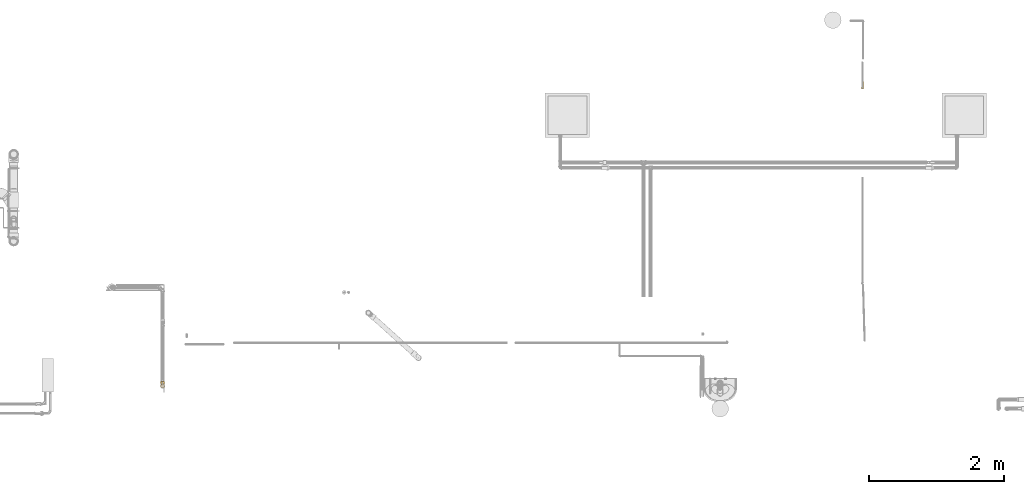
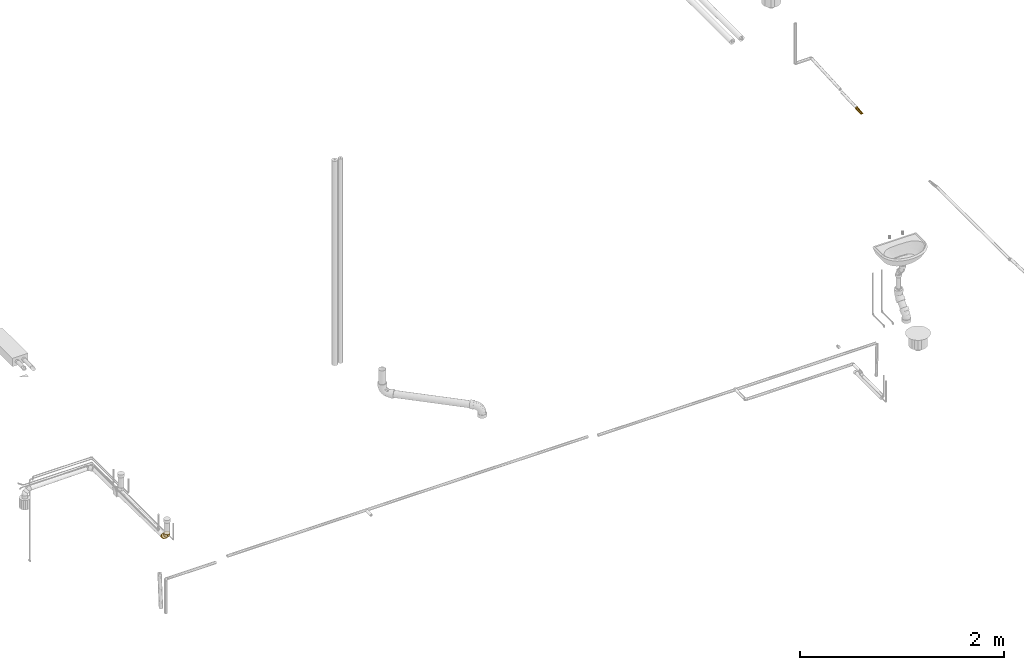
# One storey, part 16 of 108: 3 coverings.
"""IFC2X3 building model written with IfcOpenShell, lengths in millimetres."""

from ifc_helpers import new_model, entity, si_unit, converted_unit, derived_unit, direction, frame, origin_with_axes, place, context, subcontext, project, spatial, open_shell, faceted_brep, surface_model, source, transform, mapped, element, save


model = new_model("IFC2X3")

# Units and contexts
model_context = context("Model", 3, precision=0.01, world=frame((0.0, 4.29681676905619e-09, 0.0)), true_north=direction((4.01073788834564e-13, 1.0)))
plan_context = context("Plan", 3, precision=0.01, world=frame((0.0, 4.29681676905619e-09, 0.0)), true_north=direction((4.01073788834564e-13, 1.0)))
body_context = subcontext(model_context, "Body", "Model", "MODEL_VIEW")
ifc_project = project(units=[converted_unit("PLANEANGLEUNIT", "DEGREE", entity("IfcPositiveLengthMeasure", 0.0174532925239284), si_unit("PLANEANGLEUNIT", "RADIAN"), dimensions=[0, 0, 0, 0, 0, 0, 0]), si_unit("AREAUNIT", "SQUARE_METRE"), si_unit("LENGTHUNIT", "METRE", prefix="MILLI"), si_unit("MASSUNIT", "GRAM", prefix="KILO"), si_unit("POWERUNIT", "WATT"), si_unit("PRESSUREUNIT", "PASCAL", prefix="KILO"), si_unit("FORCEUNIT", "NEWTON", prefix="KILO"), si_unit("ELECTRICVOLTAGEUNIT", "VOLT"), si_unit("ELECTRICCURRENTUNIT", "AMPERE"), si_unit("THERMODYNAMICTEMPERATUREUNIT", "DEGREE_CELSIUS"), si_unit("TIMEUNIT", "SECOND"), si_unit("VOLUMEUNIT", "CUBIC_METRE"), derived_unit("LINEARVELOCITYUNIT", [(si_unit("LENGTHUNIT", "METRE"), 1), (si_unit("TIMEUNIT", "SECOND"), -1)]), derived_unit("VOLUMETRICFLOWRATEUNIT", [(si_unit("VOLUMEUNIT", "CUBIC_METRE"), 1), (si_unit("TIMEUNIT", "SECOND"), -1)]), derived_unit("THERMALTRANSMITTANCEUNIT", [(si_unit("POWERUNIT", "WATT"), 1), (si_unit("THERMODYNAMICTEMPERATUREUNIT", "KELVIN"), -1), (si_unit("AREAUNIT", "SQUARE_METRE"), -1)]), derived_unit("SOUNDPRESSUREUNIT", [(si_unit("PRESSUREUNIT", "PASCAL"), 1)])], contexts=[model_context, plan_context])

# Site, building, storey
site_placement = place(None, frame((0.0, -4.29681676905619e-09, 0.0), z_axis=(0.0, 0.0, 1.0), x_axis=(1.0, 0.0, 0.0)))
site = spatial("IfcSite", under=ifc_project, at=site_placement, CompositionType="ELEMENT")
building_placement = place(site_placement, frame((0.0, 4.29681676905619e-09, 0.0), z_axis=(0.0, 0.0, 1.0), x_axis=(1.0, 0.0, 0.0)))
building = spatial("IfcBuilding", under=site, at=building_placement, Name="mc-building", CompositionType="ELEMENT")
storey_placement = place(building_placement, frame((0.0, 0.0, 210200.0), z_axis=(0.0, 0.0, 1.0), x_axis=(1.0, 0.0, 0.0)))
storey = spatial("IfcBuildingStorey", under=building, at=storey_placement, Name="Nivå F - 0,7 m", CompositionType="ELEMENT", Elevation=210200.0)

# Coverings
shared_shape_1 = source(origin_with_axes(), body_context, "Body", "SurfaceModel", [
    surface_model("IfcShellBasedSurfaceModel", [(-11.03983, 31.89356, 0.0), (-10.50591, 31.34154, 6.81254), (-8.93143, 29.71369, 13.28167), (1.00675, 19.43863, 27.57178), (5.50288, 14.79008, 29.83368), (-3.02689, 23.609, 23.9276), (-3.03324, 23.61556, -23.92032), (-6.401, 27.09749, -19.07433), (1.00031, 19.44528, -27.56732), (10.23406, 9.89852, 30.6), (14.97031, 5.00172, 29.83202), (19.46781, 0.35176, 27.56732), (23.50136, -3.81852, 23.92032), (26.86913, -7.30045, 19.07433), (29.40266, -9.91986, 13.27241), (19.46138, 0.35841, -27.57178), (26.86407, -7.29522, -19.08346), (23.49502, -3.81196, -23.9276), (31.50795, -12.09652, 0.0), (30.97403, -11.5445, -6.81254), (29.39956, -9.91665, -13.28167), (-14.23786, 29.55733, -7.91986), (-14.23786, 29.55733, 7.91986), (-14.23786, 30.6, 0.0), (-14.23786, 21.63747, -21.63747), (-14.23786, 26.50038, -15.3), (-14.23786, 15.3, -26.50038), (-14.23786, 26.50038, 15.3), (-14.23786, 7.91986, -29.55733), (-14.23786, 7.91986, 29.55733), (-14.23786, 21.63747, 21.63747), (-14.23786, 15.3, 26.50038), (-14.23786, -7.91986, 29.55733), (-14.23786, 0.0, 30.6), (-14.23786, 0.0, -30.6), (-14.23786, -7.91986, -29.55733), (-14.23786, -15.3, -26.50038), (-14.23786, -21.63747, -21.63747), (-14.23786, -26.50038, -15.3), (-14.23786, -29.55733, -7.91986), (-14.23786, -30.6, 0.0), (-14.23786, -15.3, 26.50038), (-14.23786, -29.55733, 7.91986), (-14.23786, -21.63747, 21.63747), (-14.23786, -26.50038, 15.3), (-4.47914, -18.08054, 24.01288), (3.91226, -19.73172, 20.57233), (-2.52374, -24.61535, 16.52923), (9.25885, -21.90567, 15.21245), (5.60139, -26.44835, 7.90248), (19.32332, -19.58877, 9.61313), (15.53264, -13.95106, 20.99227), (30.97519, -11.54569, 6.80525), (20.97162, -18.94775, 0.0), (6.01426, -13.67457, 24.95827), (7.79582, -5.78669, 28.42368), (-2.18344, -4.80671, 29.88344), (-3.29516, -11.63218, 27.75094), (15.11137, -7.87717, 25.4932), (20.07411, -15.73289, 15.78846), (-1.90128, -28.19949, 0.0), (-4.27693, -29.32366, 5.57425), (10.43529, -25.79898, 0.0), (-4.59313, -27.78524, 11.09072), (6.31431, 0.99197, 30.23578), (-1.03885, 2.56833, 30.6), (-7.671, 10.64811, 28.99332), (-1.5474, 13.54717, 28.8843), (5.35271, 6.72443, 30.6), (-7.63836, 1.28416, 30.6), (-7.01416, 17.70864, 25.91258), (-10.84889, 17.60779, 25.25097), (-12.63361, 29.20063, 9.79535), (-12.51299, 30.93563, 0.0), (-13.37543, 30.76782, 0.0), (-10.50069, 22.15841, 21.64142), (-12.35551, 25.4247, 17.2929), (-10.69061, 26.61038, 16.28498), (-7.37801, 23.49544, 21.64159), (-11.67773, 31.47876, 0.0), (-11.04307, 29.74854, 10.11071), (-3.60116, 19.54784, 25.91258), (-6.39595, 27.09226, 19.08346), (-9.01445, 27.51361, 16.28498), (-12.63414, 29.20409, -9.78506), (-11.04437, 29.75118, -10.10234), (-10.50706, 31.34273, -6.80525), (-10.69271, 26.61583, -16.27569), (-12.35588, 25.43059, -17.28434), (-7.67514, 10.65765, -28.98985), (-1.03885, 2.56833, -30.6), (-7.63836, 1.28416, -30.6), (-10.50287, 22.16601, -21.63351), (-10.85184, 17.61594, -25.24511), (-7.01796, 17.71712, -25.90675), (-7.38218, 23.50256, -21.63334), (5.49781, 14.79532, -29.83202), (10.23406, 9.89852, -30.6), (5.35271, 6.72443, -30.6), (-1.55234, 13.55399, -28.88137), (-8.93453, 29.7169, -13.27241), (-9.01773, 27.51844, -16.27569), (-3.6064, 19.55551, -25.90675), (14.96524, 5.00696, -29.83368), (7.79244, -5.77911, -28.42698), (19.32066, -19.58725, -9.62124), (20.07108, -15.72824, -15.79766), (-2.18125, -4.80157, -29.88438), (-2.52823, -24.61064, -16.53777), (3.9083, -19.7254, -20.5803), (-4.60481, -27.7832, -11.10045), (-3.30331, -11.624, -27.7555), (6.01176, -13.66606, -24.96453), (9.25624, -21.90114, -15.22149), (5.58692, -26.45158, -7.90753), (-4.47379, -18.0715, -24.01914), (-4.2639, -29.32056, -5.58006), (6.31265, 0.99463, -30.23627), (15.52898, -13.94407, -21.00061), (15.10657, -7.86945, -25.49922)], [open_shell([[[0, 1, 2]], [[3, 4, 5]], [[6, 7, 8]], [[9, 10, 11]], [[12, 13, 14]], [[14, 11, 12]], [[15, 16, 17]], [[18, 19, 20]], [[21, 22, 23]], [[24, 21, 25]], [[22, 21, 26]], [[26, 21, 24]], [[27, 26, 28]], [[27, 29, 30]], [[27, 22, 26]], [[30, 29, 31]], [[27, 28, 29]], [[32, 33, 29]], [[29, 28, 32]], [[34, 35, 36]], [[32, 34, 36]], [[37, 38, 39]], [[36, 37, 32]], [[39, 40, 37]], [[41, 42, 43]], [[40, 41, 32]], [[43, 42, 44]], [[42, 41, 40]], [[32, 37, 40]], [[34, 32, 28]], [[45, 43, 46]], [[47, 48, 46]], [[49, 50, 48]], [[46, 48, 51]], [[52, 53, 18]], [[12, 51, 13]], [[46, 51, 54]], [[55, 56, 57]], [[58, 51, 12]], [[33, 32, 56]], [[54, 55, 57]], [[59, 51, 48]], [[40, 60, 61]], [[49, 62, 50]], [[14, 13, 59]], [[14, 59, 50]], [[47, 43, 44]], [[53, 52, 50]], [[49, 48, 63]], [[45, 46, 54]], [[57, 41, 45]], [[64, 9, 65]], [[11, 10, 55]], [[58, 55, 54]], [[51, 59, 13]], [[49, 63, 61]], [[11, 58, 12]], [[48, 47, 63]], [[50, 59, 48]], [[14, 50, 52]], [[43, 47, 46]], [[56, 64, 65]], [[44, 42, 63]], [[10, 64, 55]], [[32, 41, 57]], [[33, 56, 65]], [[32, 57, 56]], [[57, 45, 54]], [[43, 45, 41]], [[55, 58, 11]], [[62, 49, 60]], [[51, 58, 54]], [[55, 64, 56]], [[9, 64, 10]], [[50, 62, 53]], [[44, 63, 47]], [[61, 63, 42]], [[40, 61, 42]], [[49, 61, 60]], [[66, 65, 67]], [[67, 68, 4]], [[29, 69, 66]], [[66, 70, 71]], [[72, 73, 74]], [[70, 75, 71]], [[72, 27, 76]], [[76, 75, 77]], [[78, 75, 70]], [[1, 0, 79]], [[73, 72, 80]], [[74, 22, 72]], [[3, 67, 4]], [[27, 72, 22]], [[3, 81, 67]], [[5, 82, 78]], [[5, 81, 3]], [[2, 1, 80]], [[80, 1, 79]], [[78, 70, 81]], [[72, 77, 80]], [[83, 82, 2]], [[73, 80, 79]], [[75, 78, 77]], [[83, 78, 82]], [[83, 80, 77]], [[66, 67, 70]], [[31, 29, 66]], [[4, 68, 9]], [[67, 65, 68]], [[22, 74, 23]], [[30, 75, 76]], [[71, 30, 31]], [[78, 81, 5]], [[67, 81, 70]], [[80, 83, 2]], [[78, 83, 77]], [[72, 76, 77]], [[30, 76, 27]], [[30, 71, 75]], [[66, 71, 31]], [[69, 29, 33]], [[69, 65, 66]], [[84, 73, 85]], [[85, 79, 86]], [[21, 74, 84]], [[84, 87, 88]], [[89, 90, 91]], [[87, 92, 88]], [[89, 26, 93]], [[93, 92, 94]], [[95, 92, 87]], [[96, 97, 98]], [[90, 89, 99]], [[91, 28, 89]], [[100, 85, 86]], [[26, 89, 28]], [[85, 100, 101]], [[99, 96, 98]], [[100, 7, 101]], [[84, 85, 87]], [[86, 79, 0]], [[95, 87, 101]], [[89, 94, 99]], [[102, 6, 8]], [[90, 99, 98]], [[24, 92, 93]], [[8, 96, 99]], [[102, 99, 94]], [[102, 95, 6]], [[7, 6, 95]], [[92, 95, 94]], [[85, 73, 79]], [[28, 91, 34]], [[25, 21, 84]], [[88, 24, 25]], [[95, 101, 7]], [[85, 101, 87]], [[99, 102, 8]], [[95, 102, 94]], [[89, 93, 94]], [[24, 93, 26]], [[24, 88, 92]], [[84, 88, 25]], [[74, 21, 23]], [[74, 73, 84]], [[103, 15, 104]], [[105, 106, 20]], [[90, 107, 34]], [[108, 37, 109]], [[110, 38, 108]], [[111, 104, 112]], [[110, 108, 113]], [[110, 113, 114]], [[115, 112, 109]], [[108, 109, 113]], [[115, 37, 36]], [[110, 116, 39]], [[117, 104, 107]], [[118, 106, 113]], [[104, 15, 119]], [[111, 107, 104]], [[119, 15, 17]], [[109, 118, 113]], [[112, 115, 111]], [[112, 119, 118]], [[114, 113, 105]], [[106, 16, 20]], [[114, 105, 62]], [[116, 114, 60]], [[112, 118, 109]], [[106, 105, 113]], [[19, 53, 105]], [[20, 19, 105]], [[106, 118, 16]], [[117, 97, 103]], [[40, 39, 116]], [[118, 17, 16]], [[37, 108, 38]], [[36, 35, 111]], [[107, 90, 117]], [[111, 35, 107]], [[34, 107, 35]], [[37, 115, 109]], [[111, 115, 36]], [[114, 62, 60]], [[118, 119, 17]], [[104, 119, 112]], [[97, 117, 90]], [[104, 117, 103]], [[53, 19, 18]], [[53, 62, 105]], [[38, 110, 39]], [[114, 116, 110]], [[40, 116, 60]], [[0, 2, 82]], [[0, 5, 7]], [[0, 82, 5]], [[96, 5, 4]], [[0, 7, 100]], [[100, 86, 0]], [[8, 7, 5]], [[5, 96, 8]], [[103, 97, 96]], [[96, 4, 9]], [[18, 9, 11]], [[11, 14, 18]], [[18, 14, 52]], [[20, 15, 103]], [[16, 15, 20]], [[96, 20, 103]], [[18, 20, 96]], [[96, 9, 18]]])]),
])
covering_1_placement = place(storey_placement, frame((331121.18062, 460715.60515, 250.07527999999), z_axis=(-1.0, 0.0, 0.0), x_axis=(0.0, -0.999861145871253, 0.0166640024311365)))
element("IfcCovering", 1, at=covering_1_placement, inside=storey, Name="BI17T - Cellegummi 13 mm SPV fett", PredefinedType="INSULATION", context=body_context, shape_type="MappedRepresentation", body=[
    mapped(shared_shape_1, transform((0.0, 0.0, 0.0), scale=1.0)),
])
shared_shape_2 = source(origin_with_axes(), body_context, "Body", "SurfaceModel", [
    surface_model("IfcShellBasedSurfaceModel", [(0.92483, 19.69486, 27.57178), (5.4978, 15.12188, 29.83368), (-3.17775, 23.79743, 23.9276), (-9.1832, 29.80288, 13.28167), (-6.60438, 27.22406, 19.08346), (-9.18635, 29.80603, -13.27241), (-10.78576, 31.40544, -6.80525), (-11.32763, 31.94731, 0.0), (-3.1842, 23.80388, -23.92032), (-6.60952, 27.22921, -19.07433), (0.91828, 19.7014, -27.56732), (27.22921, -6.60952, 19.07433), (19.7014, 0.91828, 27.56732), (23.80388, -3.1842, 23.92032), (19.69486, 0.92483, -27.57178), (27.22406, -6.60438, -19.08346), (23.79743, -3.17775, -23.9276), (15.12188, 5.4978, -29.83368), (31.94731, -11.32763, 0.0), (31.40426, -10.78458, -6.81254), (29.80288, -9.1832, -13.28167), (-14.58032, 29.55733, -7.91986), (-14.58032, 29.55733, 7.91986), (-14.58032, 30.6, 0.0), (-14.58032, 21.63747, -21.63747), (-14.58032, 26.50038, -15.3), (-14.58032, 15.3, -26.50038), (-14.58032, 26.50038, 15.3), (-14.58032, 7.91986, -29.55733), (-14.58032, 7.91986, 29.55733), (-14.58032, 21.63747, 21.63747), (-14.58032, 15.3, 26.50038), (-14.58032, -7.91986, 29.55733), (-14.58032, 0.0, 30.6), (-14.58032, 0.0, -30.6), (-14.58032, -7.91986, -29.55733), (-14.58032, -15.3, -26.50038), (-14.58032, -21.63747, -21.63747), (-14.58032, -26.50038, -15.3), (-14.58032, -29.55733, -7.91986), (-14.58032, -30.6, 0.0), (-14.58032, -15.3, 26.50038), (-14.58032, -29.55733, 7.91986), (-14.58032, -21.63747, 21.63747), (-14.58032, -26.50038, 15.3), (-3.31694, -19.08895, 22.94554), (-2.96055, -23.56618, 18.05755), (4.28228, -27.30645, 5.56058), (9.39397, -21.73659, 15.16447), (-1.7164, -27.15946, 11.21067), (15.88187, -13.54981, 20.97029), (-1.86061, -4.62817, 29.87755), (6.51082, 1.42545, 30.24937), (-1.10986, 2.67944, 30.6), (-3.4156, -11.50094, 27.78642), (15.29276, -7.55457, 25.47194), (6.09315, -13.56566, 24.91387), (8.01639, -5.52529, 28.40751), (-1.99003, -28.09564, 0.0), (10.60025, -25.59127, 0.0), (19.72319, -19.13401, 9.59543), (20.34533, -15.40121, 15.66878), (29.80603, -9.18635, 13.27241), (21.27378, -18.45945, 0.0), (31.40544, -10.78576, 6.80525), (10.30984, 10.30984, 30.6), (15.12704, 5.49265, 29.83202), (6.13075, -19.15711, 20.21833), (-7.77081, 10.51178, 29.05846), (-1.5982, 13.72077, 28.8843), (5.46985, 7.07586, 30.6), (-7.84509, 1.33972, 30.6), (-7.21382, 17.7683, 25.91258), (-11.13057, 17.67143, 25.21609), (-12.94675, 29.27613, 9.60031), (-12.81997, 30.95015, 0.0), (-13.70015, 30.77508, 0.0), (-10.6141, 22.22624, 21.64141), (-12.652, 25.39805, 17.34379), (-7.56281, 23.58928, 21.64159), (-3.75572, 19.67719, 25.91258), (-10.78458, 31.40426, 6.81254), (-11.96012, 31.52469, 0.0), (-11.31209, 29.79225, 10.11071), (-10.96293, 26.63968, 16.28498), (-9.26464, 27.57713, 16.28498), (-12.94733, 29.27954, -9.58989), (-11.31343, 29.79486, -10.10234), (-10.96509, 26.64511, -16.27569), (-12.6524, 25.404, -17.33519), (-7.77496, 10.52145, -29.05502), (-1.10986, 2.67944, -30.6), (-7.84509, 1.33972, -30.6), (-10.61641, 22.23379, -21.63352), (-11.13357, 17.67961, -25.21017), (-7.56708, 23.59634, -21.63334), (-9.26797, 27.58193, -16.27569), (5.49265, 15.12704, -29.83202), (10.30984, 10.30984, -30.6), (5.46985, 7.07586, -30.6), (-1.60322, 13.72753, -28.88137), (-7.21768, 17.77675, -25.90675), (-3.76105, 19.6848, -25.90675), (8.0129, -5.51777, -28.41082), (4.28235, -27.30661, -5.55962), (-1.85891, -4.62315, -29.8785), (-2.96595, -23.56704, -18.05782), (-1.71033, -27.1583, -11.21043), (-3.42387, -11.49277, -27.79098), (6.09056, -13.55719, -24.92014), (-3.31399, -19.08646, -22.94716), (9.39135, -21.7321, -15.17351), (6.50892, 1.42782, -30.24983), (15.28786, -7.54692, -25.47798), (6.13182, -19.15831, -20.21661), (20.34212, -15.39869, -15.67532), (15.87812, -13.54289, -20.97863), (19.72055, -19.1325, -9.60354)], [open_shell([[[0, 1, 2]], [[3, 4, 2]], [[5, 6, 7]], [[8, 9, 10]], [[11, 12, 13]], [[14, 15, 16]], [[15, 14, 17]], [[18, 19, 15]], [[20, 15, 19]], [[21, 22, 23]], [[24, 21, 25]], [[22, 21, 26]], [[26, 21, 24]], [[27, 26, 28]], [[27, 29, 30]], [[27, 22, 26]], [[30, 29, 31]], [[27, 28, 29]], [[32, 33, 29]], [[29, 28, 32]], [[34, 35, 36]], [[32, 34, 36]], [[37, 38, 39]], [[36, 37, 32]], [[39, 40, 37]], [[41, 42, 43]], [[40, 41, 32]], [[43, 42, 44]], [[42, 41, 40]], [[32, 37, 40]], [[34, 32, 28]], [[45, 41, 43]], [[43, 44, 46]], [[47, 48, 49]], [[43, 46, 45]], [[46, 49, 48]], [[13, 50, 11]], [[51, 52, 53]], [[51, 32, 54]], [[55, 50, 13]], [[33, 32, 51]], [[56, 57, 54]], [[54, 41, 45]], [[42, 40, 58]], [[47, 59, 60]], [[50, 61, 11]], [[62, 61, 60]], [[51, 54, 57]], [[63, 64, 60]], [[44, 42, 49]], [[42, 47, 49]], [[61, 48, 60]], [[52, 65, 53]], [[12, 66, 57]], [[55, 57, 56]], [[64, 63, 18]], [[47, 60, 48]], [[12, 55, 13]], [[58, 47, 42]], [[59, 47, 58]], [[62, 60, 64]], [[32, 41, 54]], [[56, 45, 67]], [[52, 57, 66]], [[51, 53, 33]], [[49, 46, 44]], [[48, 50, 67]], [[67, 45, 46]], [[45, 56, 54]], [[48, 67, 46]], [[56, 67, 50]], [[57, 55, 12]], [[50, 55, 56]], [[57, 52, 51]], [[65, 52, 66]], [[11, 61, 62]], [[50, 48, 61]], [[60, 59, 63]], [[68, 53, 69]], [[69, 70, 1]], [[29, 71, 68]], [[68, 72, 73]], [[74, 75, 76]], [[72, 77, 73]], [[74, 27, 78]], [[79, 80, 2]], [[79, 77, 72]], [[81, 7, 82]], [[75, 74, 83]], [[76, 22, 74]], [[0, 69, 1]], [[27, 74, 22]], [[0, 80, 69]], [[2, 4, 79]], [[2, 80, 0]], [[3, 81, 83]], [[83, 81, 82]], [[79, 72, 80]], [[74, 84, 83]], [[85, 4, 3]], [[75, 83, 82]], [[77, 79, 84]], [[85, 79, 4]], [[85, 83, 84]], [[68, 69, 72]], [[31, 29, 68]], [[1, 70, 65]], [[69, 53, 70]], [[22, 76, 23]], [[30, 77, 78]], [[69, 80, 72]], [[83, 85, 3]], [[79, 85, 84]], [[78, 77, 84]], [[73, 30, 31]], [[74, 78, 84]], [[30, 78, 27]], [[30, 73, 77]], [[68, 73, 31]], [[71, 29, 33]], [[71, 53, 68]], [[86, 75, 87]], [[87, 82, 6]], [[21, 76, 86]], [[86, 88, 89]], [[90, 91, 92]], [[88, 93, 89]], [[90, 26, 94]], [[95, 96, 9]], [[95, 93, 88]], [[97, 98, 99]], [[91, 90, 100]], [[92, 28, 90]], [[5, 87, 6]], [[26, 90, 28]], [[87, 5, 96]], [[100, 97, 99]], [[5, 9, 96]], [[86, 87, 88]], [[6, 82, 7]], [[95, 88, 96]], [[90, 101, 100]], [[102, 8, 10]], [[91, 100, 99]], [[24, 93, 94]], [[10, 97, 100]], [[102, 100, 101]], [[102, 95, 8]], [[9, 8, 95]], [[93, 95, 101]], [[87, 75, 82]], [[28, 92, 34]], [[25, 21, 86]], [[87, 96, 88]], [[100, 102, 10]], [[95, 102, 101]], [[94, 93, 101]], [[89, 24, 25]], [[90, 94, 101]], [[24, 94, 26]], [[24, 89, 93]], [[86, 89, 25]], [[76, 21, 23]], [[76, 75, 86]], [[17, 14, 103]], [[39, 104, 58]], [[91, 105, 34]], [[37, 106, 38]], [[39, 107, 104]], [[108, 103, 109]], [[106, 107, 38]], [[35, 34, 105]], [[108, 110, 36]], [[104, 107, 111]], [[36, 35, 108]], [[104, 59, 58]], [[112, 103, 105]], [[40, 39, 58]], [[103, 14, 113]], [[114, 111, 106]], [[113, 14, 16]], [[103, 108, 105]], [[115, 15, 20]], [[109, 113, 116]], [[39, 38, 107]], [[20, 117, 115]], [[104, 117, 59]], [[106, 110, 114]], [[115, 117, 111]], [[19, 63, 117]], [[20, 19, 117]], [[109, 110, 108]], [[112, 98, 17]], [[104, 111, 117]], [[116, 16, 15]], [[35, 105, 108]], [[112, 105, 91]], [[110, 106, 37]], [[107, 106, 111]], [[36, 110, 37]], [[114, 109, 116]], [[109, 114, 110]], [[111, 114, 116]], [[116, 113, 16]], [[103, 113, 109]], [[98, 112, 91]], [[103, 112, 17]], [[111, 116, 115]], [[15, 115, 116]], [[63, 19, 18]], [[63, 59, 117]], [[5, 7, 81]], [[3, 5, 81]], [[5, 3, 2]], [[5, 2, 17]], [[5, 17, 9]], [[17, 98, 97]], [[9, 17, 10]], [[17, 97, 10]], [[17, 2, 1]], [[65, 66, 12]], [[1, 12, 17]], [[12, 11, 17]], [[62, 64, 11]], [[64, 18, 11]], [[18, 15, 17]], [[17, 11, 18]], [[12, 1, 65]]])]),
])
covering_2_placement = place(storey_placement, frame((331121.18062, 460657.6, 308.080430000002), z_axis=(-1.0, 0.0, 0.0), x_axis=(0.0, -0.707106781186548, 0.707106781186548)))
element("IfcCovering", 2, at=covering_2_placement, inside=storey, Name="BI17T - Cellegummi 13 mm SPV fett", PredefinedType="INSULATION", context=body_context, shape_type="MappedRepresentation", body=[
    mapped(shared_shape_2, transform((0.0, 0.0, 0.0), scale=1.0)),
])
covering_3_placement = place(storey_placement, frame((341524.45116, 465079.67971, -1006.50984000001), z_axis=(0.0, -0.148553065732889, 0.988904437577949), x_axis=(0.0, 0.988904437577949, 0.148553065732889)))
element("IfcCovering", 3, at=covering_3_placement, inside=storey, Name="BI10T - Cellegummi 18-32 mm kalde rør", PredefinedType="INSULATION", context=body_context, shape_type="Brep", body=[
    faceted_brep([(50.7574090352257, 5.90884651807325, -1.04188906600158), (43.8216469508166, 6.0, 0.0), (109.3, 6.0, 0.0), (109.3, 5.90884651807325, -1.04188906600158), (57.4824314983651, 5.63815572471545, -2.05212085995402), (109.3, 5.63815572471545, -2.05212085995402), (63.7923779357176, 5.19615242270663, -3.0), (109.3, 5.19615242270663, -3.0), (69.4955238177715, 4.59626665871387, -3.85672565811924), (109.3, 4.59626665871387, -3.85672565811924), (74.4185819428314, 3.85672565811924, -4.59626665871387), (109.3, 3.85672565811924, -4.59626665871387), (78.4119676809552, 3.0, -5.19615242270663), (109.3, 3.0, -5.19615242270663), (81.3543440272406, 2.05212085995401, -5.63815572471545), (109.3, 2.05212085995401, -5.63815572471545), (83.1563083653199, 1.04188906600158, -5.90884651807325), (109.3, 1.04188906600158, -5.90884651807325), (83.7631089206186, -1.10218211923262e-15, -6.0), (109.3, -1.10218211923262e-15, -6.0), (83.1563083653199, -1.04188906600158, -5.90884651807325), (109.3, -1.04188906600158, -5.90884651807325), (81.3543440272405, -2.05212085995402, -5.63815572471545), (109.3, -2.05212085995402, -5.63815572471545), (78.4119676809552, -3.0, -5.19615242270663), (109.3, -3.0, -5.19615242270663), (74.4185819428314, -3.85672565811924, -4.59626665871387), (109.3, -3.85672565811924, -4.59626665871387), (69.4955238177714, -4.59626665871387, -3.85672565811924), (109.3, -4.59626665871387, -3.85672565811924), (63.7923779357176, -5.19615242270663, -3.0), (109.3, -5.19615242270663, -3.0), (57.482431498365, -5.63815572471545, -2.05212085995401), (109.3, -5.63815572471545, -2.05212085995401), (50.7574090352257, -5.90884651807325, -1.04188906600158), (109.3, -5.90884651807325, -1.04188906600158), (43.8216469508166, -6.0, 7.34788079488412e-16), (109.3, -6.0, 7.34788079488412e-16), (36.8858848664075, -5.90884651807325, 1.04188906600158), (109.3, -5.90884651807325, 1.04188906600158), (30.1608624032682, -5.63815572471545, 2.05212085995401), (109.3, -5.63815572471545, 2.05212085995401), (23.8509159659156, -5.19615242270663, 3.0), (109.3, -5.19615242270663, 3.0), (18.1477700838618, -4.59626665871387, 3.85672565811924), (109.3, -4.59626665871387, 3.85672565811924), (13.2247119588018, -3.85672565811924, 4.59626665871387), (109.3, -3.85672565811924, 4.59626665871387), (9.231326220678, -3.0, 5.19615242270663), (109.3, -3.0, 5.19615242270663), (6.28894987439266, -2.05212085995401, 5.63815572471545), (109.3, -2.05212085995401, 5.63815572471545), (4.48698553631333, -1.04188906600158, 5.90884651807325), (109.3, -1.04188906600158, 5.90884651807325), (3.88018498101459, 3.67394039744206e-16, 6.0), (109.3, 3.67394039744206e-16, 6.0), (4.48698553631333, 1.04188906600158, 5.90884651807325), (109.3, 1.04188906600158, 5.90884651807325), (6.28894987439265, 2.05212085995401, 5.63815572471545), (109.3, 2.05212085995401, 5.63815572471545), (9.231326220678, 3.0, 5.19615242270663), (109.3, 3.0, 5.19615242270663), (13.2247119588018, 3.85672565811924, 4.59626665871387), (109.3, 3.85672565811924, 4.59626665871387), (18.1477700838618, 4.59626665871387, 3.85672565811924), (109.3, 4.59626665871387, 3.85672565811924), (23.8509159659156, 5.19615242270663, 3.0), (109.3, 5.19615242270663, 3.0), (30.1608624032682, 5.63815572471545, 2.05212085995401), (109.3, 5.63815572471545, 2.05212085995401), (36.8858848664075, 5.90884651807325, 1.04188906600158), (109.3, 5.90884651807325, 1.04188906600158), (43.8216469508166, 16.0, 0.0), (62.3170125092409, 15.7569240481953, -2.77837084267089), (109.3, 15.7569240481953, -2.77837084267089), (109.3, 16.0, 0.0), (25.3262813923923, 15.7569240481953, 2.77837084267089), (109.3, 15.7569240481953, 2.77837084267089), (7.39288815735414, 15.0350819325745, 5.4723222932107), (109.3, 15.0350819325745, 5.4723222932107), (0.0, 14.5172200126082, 6.58288076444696), (109.3, 13.856406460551, 8.0), (0.0, 13.856406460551, 8.0), (109.3, 12.2567110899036, 10.2846017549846), (0.0, 12.2567110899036, 10.2846017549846), (109.3, 10.2846017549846, 12.2567110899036), (0.0, 10.2846017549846, 12.2567110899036), (109.3, 8.0, 13.856406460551), (0.0, 8.0, 13.856406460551), (109.3, 5.4723222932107, 15.0350819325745), (0.0, 5.4723222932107, 15.0350819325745), (109.3, 2.77837084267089, 15.7569240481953), (0.0, 2.77837084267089, 15.7569240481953), (109.3, 9.79717439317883e-16, 16.0), (0.0, 9.79717439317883e-16, 16.0), (109.3, -2.77837084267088, 15.7569240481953), (0.0, -2.77837084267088, 15.7569240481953), (109.3, -5.4723222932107, 15.0350819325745), (0.0, -5.4723222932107, 15.0350819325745), (109.3, -8.0, 13.856406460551), (0.0, -8.0, 13.856406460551), (109.3, -10.2846017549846, 12.2567110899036), (0.0, -10.2846017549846, 12.2567110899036), (109.3, -12.2567110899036, 10.2846017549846), (0.0, -12.2567110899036, 10.2846017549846), (109.3, -13.856406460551, 8.0), (0.0, -13.856406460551, 8.0), (7.3928881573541, -15.0350819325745, 5.4723222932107), (0.0, -14.5172200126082, 6.58288076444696), (109.3, -15.0350819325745, 5.4723222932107), (25.3262813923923, -15.7569240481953, 2.77837084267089), (109.3, -15.7569240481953, 2.77837084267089), (43.8216469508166, -16.0, 1.95943487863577e-15), (109.3, -16.0, 1.95943487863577e-15), (62.3170125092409, -15.7569240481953, -2.77837084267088), (109.3, -15.7569240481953, -2.77837084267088), (80.2504057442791, -15.0350819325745, -5.4723222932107), (109.3, -15.0350819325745, -5.4723222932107), (97.0769295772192, -13.856406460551, -8.0), (109.3, -13.856406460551, -8.0), (109.3, -12.5707220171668, -9.83614767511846), (97.0769295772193, 13.856406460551, -8.00000000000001), (109.3, 12.5707220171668, -9.83614767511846), (109.3, 13.856406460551, -8.00000000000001), (80.2504057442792, 15.0350819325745, -5.47232229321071), (109.3, 15.0350819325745, -5.47232229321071)], [[[0, 1, 2, 3]], [[4, 0, 3, 5]], [[6, 4, 5, 7]], [[8, 6, 7, 9]], [[10, 8, 9, 11]], [[12, 10, 11, 13]], [[14, 12, 13, 15]], [[16, 14, 15, 17]], [[18, 16, 17, 19]], [[20, 18, 19, 21]], [[22, 20, 21, 23]], [[24, 22, 23, 25]], [[26, 24, 25, 27]], [[28, 26, 27, 29]], [[30, 28, 29, 31]], [[32, 30, 31, 33]], [[34, 32, 33, 35]], [[36, 34, 35, 37]], [[38, 36, 37, 39]], [[40, 38, 39, 41]], [[42, 40, 41, 43]], [[44, 42, 43, 45]], [[46, 44, 45, 47]], [[48, 46, 47, 49]], [[50, 48, 49, 51]], [[52, 50, 51, 53]], [[54, 52, 53, 55]], [[56, 54, 55, 57]], [[58, 56, 57, 59]], [[60, 58, 59, 61]], [[62, 60, 61, 63]], [[64, 62, 63, 65]], [[66, 64, 65, 67]], [[68, 66, 67, 69]], [[70, 68, 69, 71]], [[1, 70, 71, 2]], [[72, 73, 74, 75]], [[76, 72, 75, 77]], [[78, 76, 77, 79]], [[80, 78, 79, 81, 82]], [[82, 81, 83, 84]], [[84, 83, 85, 86]], [[86, 85, 87, 88]], [[88, 87, 89, 90]], [[90, 89, 91, 92]], [[92, 91, 93, 94]], [[94, 93, 95, 96]], [[96, 95, 97, 98]], [[98, 97, 99, 100]], [[100, 99, 101, 102]], [[102, 101, 103, 104]], [[104, 103, 105, 106]], [[107, 108, 106, 105, 109]], [[110, 107, 109, 111]], [[112, 110, 111, 113]], [[114, 112, 113, 115]], [[116, 114, 115, 117]], [[118, 116, 117, 119]], [[120, 118, 119]], [[121, 122, 123]], [[124, 121, 123, 125]], [[73, 124, 125, 74]], [[108, 80, 82, 84, 86, 88, 90, 92, 94, 96, 98, 100, 102, 104, 106]], [[122, 120, 119, 117, 115, 113, 111, 109, 105, 103, 101, 99, 97, 95, 93, 91, 89, 87, 85, 83, 81, 79, 77, 75, 74, 125, 123], [2, 71, 69, 67, 65, 63, 61, 59, 57, 55, 53, 51, 49, 47, 45, 43, 41, 39, 37, 35, 33, 31, 29, 27, 25, 23, 21, 19, 17, 15, 13, 11, 9, 7, 5, 3]], [[76, 78, 80, 108, 107, 110, 112, 114, 116, 118, 120, 122, 121, 124, 73, 72], [4, 6, 8, 10, 12, 14, 16, 18, 20, 22, 24, 26, 28, 30, 32, 34, 36, 38, 40, 42, 44, 46, 48, 50, 52, 54, 56, 58, 60, 62, 64, 66, 68, 70, 1, 0]]], orient=[[False], [False], [False], [False], [False], [False], [False], [False], [False], [False], [False], [False], [False], [False], [False], [False], [False], [False], [False], [False], [False], [False], [False], [False], [False], [False], [False], [False], [False], [False], [False], [False], [False], [False], [False], [False], [False], [False], [False], [False], [False], [False], [False], [False], [False], [False], [False], [False], [False], [False], [False], [False], [False], [False], [False], [False], [False], [False], [False], [False], [False], [False], [False], [False, False], [False, False]]),
])

save(model, "model.ifc")
